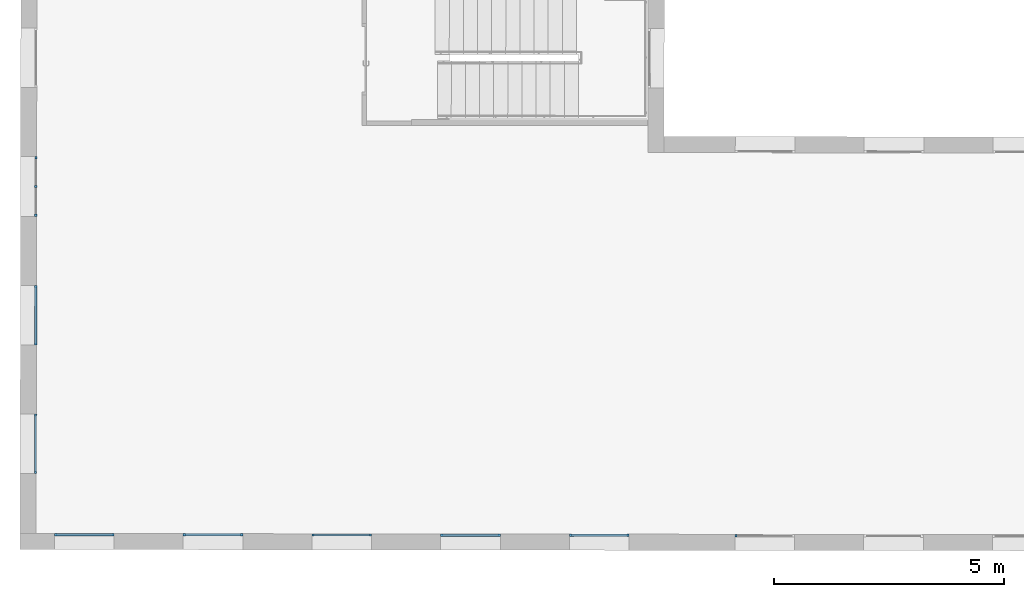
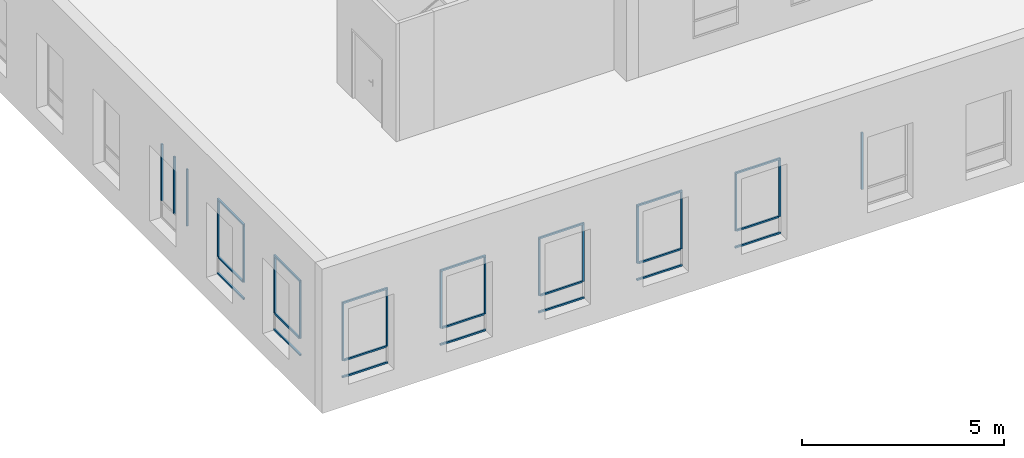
# One storey, part 1 of 35: 39 members, 9 elements without a shape of their own.
"""IFC2X3 building model written with IfcOpenShell, lengths in metres."""

from ifc_helpers import new_model, entity, si_unit, converted_unit, derived_unit, direction, frame, frame_2d, origin, origin_2d_with_axis, place, context, subcontext, project, spatial, rectangle, extrude, source, transform, mapped, material, type_object, type_shapes, element, aggregate, save


model = new_model("IFC2X3")

# Units and contexts
model_context = context("Model", 3, precision=1e-05, world=origin(), true_north=direction((6.123233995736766e-17, 1.0)))
body_context = subcontext(model_context, "Body", "Model", "MODEL_VIEW")
ifc_project = project(units=[si_unit("LENGTHUNIT", "METRE"), si_unit("AREAUNIT", "SQUARE_METRE"), converted_unit("PLANEANGLEUNIT", "DEGREE", entity("IfcPlaneAngleMeasure", 0.017453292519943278), si_unit("PLANEANGLEUNIT", "RADIAN"), dimensions=[0, 0, 0, 0, 0, 0, 0]), derived_unit("THERMALTRANSMITTANCEUNIT", [(si_unit("MASSUNIT", "GRAM", prefix="KILO"), 1), (si_unit("THERMODYNAMICTEMPERATUREUNIT", "KELVIN"), -1), (si_unit("TIMEUNIT", "SECOND"), -3)])], contexts=[model_context])

# Site, building, storey
site_placement = place(None, frame((1253.6752467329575, 2072.143113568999, 91.49999999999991), z_axis=(0.0, 0.0, 1.0), x_axis=(0.7237211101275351, 0.6900925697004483, 0.0)))
site = spatial("IfcSite", under=ifc_project, at=site_placement, Name="Surface", CompositionType="ELEMENT")
building_placement = place(site_placement, origin())
building = spatial("IfcBuilding", under=site, at=building_placement, CompositionType="ELEMENT")
storey_placement = place(building_placement, frame((0.0, 0.0, 3.549999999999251)))
storey = spatial("IfcBuildingStorey", under=building, at=storey_placement, Name="1-R+1", CompositionType="ELEMENT", Elevation=3.549999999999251)

# Curtain wall, member
curtain_wall_type = type_object("IfcCurtainWallType", Name="Mur-rideau:Menuiserie Ext 1F+1OB VERTIC", PredefinedType="NOTDEFINED")
curtain_wall_1_placement = place(storey_placement, frame((0.0, 0.0, -3.549999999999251)))
curtain_wall_1 = element("IfcCurtainWall", 1, at=curtain_wall_1_placement, inside=storey, type_object=curtain_wall_type, Name="Mur-rideau:Menuiserie Ext 1F+1OB VERTIC", ObjectType="Mur-rideau:Menuiserie Ext 1F+1OB VERTIC")
ifc_material_1 = material(Name="OMD_Aluminium Men Ext")
member_type_1 = type_object("IfcMemberType", Name="Meneau rectangulaire:50x50", PredefinedType="MULLION", material=ifc_material_1)
shared_shape_1 = source(origin(), body_context, "Body", "SweptSolid", [
    extrude(rectangle(XDim=0.05, YDim=0.049999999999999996, at=origin_2d_with_axis()), frame((-0.025, 0.0, -1.2996959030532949), z_axis=(0.0, 0.0, 1.0), x_axis=(-1.0, 0.0, 0.0)), (0.0, 0.0, 1.0), 1.2996959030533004),
])
type_shapes(member_type_1, [shared_shape_1])
member_1_placement = place(curtain_wall_1_placement, frame((152.60053656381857, -3.756054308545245, 6.4499999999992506), z_axis=(-0.7228702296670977, 0.6909838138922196, 0.0), x_axis=(0.0, 0.0, 1.0)))
member_1 = element("IfcMember", 2, at=member_1_placement, type_object=member_type_1, material=ifc_material_1, Name="Meneau rectangulaire:50x50", ObjectType="Meneau rectangulaire:50x50", context=body_context, shape_type="MappedRepresentation", body=[
    mapped(shared_shape_1, transform((0.0, 0.0, 0.0), scale=1.0)),
])

curtain_wall_2_placement = place(storey_placement, frame((0.0, 0.0, -3.549999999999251)))
curtain_wall_2 = element("IfcCurtainWall", 3, at=curtain_wall_2_placement, inside=storey, type_object=curtain_wall_type, Name="Mur-rideau:Menuiserie Ext 1F+1OB VERTIC", ObjectType="Mur-rideau:Menuiserie Ext 1F+1OB VERTIC")
member_2_placement = place(curtain_wall_2_placement, frame((150.5764999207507, -1.8212996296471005, 6.4499999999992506), z_axis=(-0.7228702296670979, 0.6909838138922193, 0.0), x_axis=(0.0, 0.0, 1.0)))
member_2 = element("IfcMember", 4, at=member_2_placement, type_object=member_type_1, material=ifc_material_1, Name="Meneau rectangulaire:50x50", ObjectType="Meneau rectangulaire:50x50", context=body_context, shape_type="MappedRepresentation", body=[
    mapped(shared_shape_1, transform((0.0, 0.0, 0.0), scale=1.0)),
])

curtain_wall_3_placement = place(storey_placement, frame((0.0, 0.0, -3.549999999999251)))
curtain_wall_3 = element("IfcCurtainWall", 5, at=curtain_wall_3_placement, inside=storey, type_object=curtain_wall_type, Name="Mur-rideau:Menuiserie Ext 1F+1OB VERTIC", ObjectType="Mur-rideau:Menuiserie Ext 1F+1OB VERTIC")
member_3_placement = place(curtain_wall_3_placement, frame((148.55246327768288, 0.11345504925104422, 6.4499999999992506), z_axis=(-0.7228702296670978, 0.6909838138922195, 0.0), x_axis=(0.0, 0.0, 1.0)))
member_3 = element("IfcMember", 6, at=member_3_placement, type_object=member_type_1, material=ifc_material_1, Name="Meneau rectangulaire:50x50", ObjectType="Meneau rectangulaire:50x50", context=body_context, shape_type="MappedRepresentation", body=[
    mapped(shared_shape_1, transform((0.0, 0.0, 0.0), scale=1.0)),
])

curtain_wall_4_placement = place(storey_placement, frame((0.0, 0.0, -3.549999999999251)))
curtain_wall_4 = element("IfcCurtainWall", 7, at=curtain_wall_4_placement, inside=storey, type_object=curtain_wall_type, Name="Mur-rideau:Menuiserie Ext 1F+1OB VERTIC", ObjectType="Mur-rideau:Menuiserie Ext 1F+1OB VERTIC")
member_4_placement = place(curtain_wall_4_placement, frame((146.5281144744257, 2.048508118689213, 6.4499999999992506), z_axis=(-0.7228702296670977, 0.6909838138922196, 0.0), x_axis=(0.0, 0.0, 1.0)))
member_4 = element("IfcMember", 8, at=member_4_placement, type_object=member_type_1, material=ifc_material_1, Name="Meneau rectangulaire:50x50", ObjectType="Meneau rectangulaire:50x50", context=body_context, shape_type="MappedRepresentation", body=[
    mapped(shared_shape_1, transform((0.0, 0.0, 0.0), scale=1.0)),
])

curtain_wall_5_placement = place(storey_placement, frame((0.0, 0.0, -3.549999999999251)))
curtain_wall_5 = element("IfcCurtainWall", 9, at=curtain_wall_5_placement, inside=storey, type_object=curtain_wall_type, Name="Mur-rideau:Menuiserie Ext 1F+1OB VERTIC", ObjectType="Mur-rideau:Menuiserie Ext 1F+1OB VERTIC")
member_5_placement = place(curtain_wall_5_placement, frame((144.50438999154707, 3.9829644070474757, 6.4499999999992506), z_axis=(-0.7228702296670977, 0.6909838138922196, 0.0), x_axis=(0.0, 0.0, 1.0)))
member_5 = element("IfcMember", 10, at=member_5_placement, type_object=member_type_1, material=ifc_material_1, Name="Meneau rectangulaire:50x50", ObjectType="Meneau rectangulaire:50x50", context=body_context, shape_type="MappedRepresentation", body=[
    mapped(shared_shape_1, transform((0.0, 0.0, 0.0), scale=1.0)),
])

curtain_wall_6_placement = place(storey_placement, frame((0.0, 0.0, -3.549999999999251)))
curtain_wall_6 = element("IfcCurtainWall", 11, at=curtain_wall_6_placement, inside=storey, type_object=curtain_wall_type, Name="Mur-rideau:Menuiserie Ext 1F+1OB VERTIC", ObjectType="Mur-rideau:Menuiserie Ext 1F+1OB VERTIC")
member_6_placement = place(curtain_wall_6_placement, frame((146.02021282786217, 6.166797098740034, 6.4499999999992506), z_axis=(0.6911544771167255, 0.7227070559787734, 0.0), x_axis=(0.0, 0.0, 1.0)))
member_6 = element("IfcMember", 12, at=member_6_placement, type_object=member_type_1, material=ifc_material_1, Name="Meneau rectangulaire:50x50", ObjectType="Meneau rectangulaire:50x50", context=body_context, shape_type="MappedRepresentation", body=[
    mapped(shared_shape_1, transform((0.0, 0.0, 0.0), scale=1.0)),
])

curtain_wall_7_placement = place(storey_placement, frame((0.0, 0.0, -3.549999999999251)))
curtain_wall_7 = element("IfcCurtainWall", 13, at=curtain_wall_7_placement, inside=storey, type_object=curtain_wall_type, Name="Mur-rideau:Menuiserie Ext 1F+1OB VERTIC", ObjectType="Mur-rideau:Menuiserie Ext 1F+1OB VERTIC")
member_7_placement = place(curtain_wall_7_placement, frame((147.9515125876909, 8.187219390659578, 6.4499999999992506), z_axis=(0.6911544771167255, 0.7227070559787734, 0.0), x_axis=(0.0, 0.0, 1.0)))
member_7 = element("IfcMember", 14, at=member_7_placement, type_object=member_type_1, material=ifc_material_1, Name="Meneau rectangulaire:50x50", ObjectType="Meneau rectangulaire:50x50", context=body_context, shape_type="MappedRepresentation", body=[
    mapped(shared_shape_1, transform((0.0, 0.0, 0.0), scale=1.0)),
])

# Member
member_type_2 = type_object("IfcMemberType", Name="Meneau rectangulaire:50x50", PredefinedType="MULLION", material=ifc_material_1)
shared_shape_2 = source(origin(), body_context, "Body", "SweptSolid", [
    extrude(rectangle(XDim=0.05, YDim=0.05, at=origin_2d_with_axis()), frame((-0.025, 0.0, -1.2996959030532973), z_axis=(0.0, 0.0, 1.0), x_axis=(-1.0, 0.0, 0.0)), (0.0, 0.0, 1.0), 1.2996959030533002),
])
type_shapes(member_type_2, [shared_shape_2])
member_8_placement = place(curtain_wall_1_placement, frame((153.5400480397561, -4.6541231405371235, 4.169999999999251), z_axis=(0.7228702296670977, -0.6909838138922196, 0.0), x_axis=(0.0, 0.0, -1.0)))
member_8 = element("IfcMember", 15, at=member_8_placement, type_object=member_type_2, material=ifc_material_1, Name="Meneau rectangulaire:50x50", ObjectType="Meneau rectangulaire:50x50", context=body_context, shape_type="MappedRepresentation", body=[
    mapped(shared_shape_2, transform((0.0, 0.0, 0.0), scale=1.0)),
])

member_9_placement = place(curtain_wall_2_placement, frame((151.5160113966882, -2.7193684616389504, 4.169999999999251), z_axis=(0.7228702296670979, -0.6909838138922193, 0.0), x_axis=(0.0, 0.0, -1.0)))
member_9 = element("IfcMember", 16, at=member_9_placement, type_object=member_type_2, material=ifc_material_1, Name="Meneau rectangulaire:50x50", ObjectType="Meneau rectangulaire:50x50", context=body_context, shape_type="MappedRepresentation", body=[
    mapped(shared_shape_2, transform((0.0, 0.0, 0.0), scale=1.0)),
])

member_10_placement = place(curtain_wall_3_placement, frame((149.4919747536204, -0.7846137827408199, 4.169999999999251), z_axis=(0.7228702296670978, -0.6909838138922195, 0.0), x_axis=(0.0, 0.0, -1.0)))
member_10 = element("IfcMember", 17, at=member_10_placement, type_object=member_type_2, material=ifc_material_1, Name="Meneau rectangulaire:50x50", ObjectType="Meneau rectangulaire:50x50", context=body_context, shape_type="MappedRepresentation", body=[
    mapped(shared_shape_2, transform((0.0, 0.0, 0.0), scale=1.0)),
])

member_11_placement = place(curtain_wall_4_placement, frame((147.4676259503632, 1.1504392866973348, 4.169999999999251), z_axis=(0.7228702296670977, -0.6909838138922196, 0.0), x_axis=(0.0, 0.0, -1.0)))
member_11 = element("IfcMember", 18, at=member_11_placement, type_object=member_type_2, material=ifc_material_1, Name="Meneau rectangulaire:50x50", ObjectType="Meneau rectangulaire:50x50", context=body_context, shape_type="MappedRepresentation", body=[
    mapped(shared_shape_2, transform((0.0, 0.0, 0.0), scale=1.0)),
])

member_12_placement = place(curtain_wall_5_placement, frame((145.44390146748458, 3.0848955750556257, 4.169999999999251), z_axis=(0.7228702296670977, -0.6909838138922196, 0.0), x_axis=(0.0, 0.0, -1.0)))
member_12 = element("IfcMember", 19, at=member_12_placement, type_object=member_type_2, material=ifc_material_1, Name="Meneau rectangulaire:50x50", ObjectType="Meneau rectangulaire:50x50", context=body_context, shape_type="MappedRepresentation", body=[
    mapped(shared_shape_2, transform((0.0, 0.0, 0.0), scale=1.0)),
])

member_13_placement = place(curtain_wall_6_placement, frame((145.12192218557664, 5.22749769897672, 4.169999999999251), z_axis=(-0.6911544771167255, -0.7227070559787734, 0.0), x_axis=(0.0, 0.0, -1.0)))
member_13 = element("IfcMember", 20, at=member_13_placement, type_object=member_type_2, material=ifc_material_1, Name="Meneau rectangulaire:50x50", ObjectType="Meneau rectangulaire:50x50", context=body_context, shape_type="MappedRepresentation", body=[
    mapped(shared_shape_2, transform((0.0, 0.0, 0.0), scale=1.0)),
])

member_14_placement = place(curtain_wall_7_placement, frame((147.05322194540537, 7.24791999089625, 4.169999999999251), z_axis=(-0.6911544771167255, -0.7227070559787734, 0.0), x_axis=(0.0, 0.0, -1.0)))
member_14 = element("IfcMember", 21, at=member_14_placement, type_object=member_type_2, material=ifc_material_1, Name="Meneau rectangulaire:50x50", ObjectType="Meneau rectangulaire:50x50", context=body_context, shape_type="MappedRepresentation", body=[
    mapped(shared_shape_2, transform((0.0, 0.0, 0.0), scale=1.0)),
])

member_type_3 = type_object("IfcMemberType", Name="Meneau rectangulaire:50x50", PredefinedType="MULLION", material=ifc_material_1)
shared_shape_3 = source(origin(), body_context, "Body", "SweptSolid", [
    extrude(rectangle(XDim=0.05, YDim=0.049999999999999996, at=origin_2d_with_axis()), frame((-0.025, 0.0, -1.7099999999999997), z_axis=(0.0, 0.0, 1.0), x_axis=(-1.0, 0.0, 0.0)), (0.0, 0.0, 1.0), 1.7099999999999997),
])
type_shapes(member_type_3, [shared_shape_3])
member_15_placement = place(curtain_wall_1_placement, frame((153.54004803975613, -4.654123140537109, 6.399999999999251), z_axis=(0.0, 0.0, 1.0), x_axis=(0.7228702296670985, -0.6909838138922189, 0.0)))
member_15 = element("IfcMember", 22, at=member_15_placement, type_object=member_type_3, material=ifc_material_1, Name="Meneau rectangulaire:50x50", ObjectType="Meneau rectangulaire:50x50", context=body_context, shape_type="MappedRepresentation", body=[
    mapped(shared_shape_3, transform((0.0, 0.0, 0.0), scale=1.0)),
])

member_16_placement = place(curtain_wall_2_placement, frame((151.51601139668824, -2.7193684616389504, 6.399999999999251), z_axis=(0.0, 0.0, 1.0), x_axis=(0.7228702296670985, -0.6909838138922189, 0.0)))
member_16 = element("IfcMember", 23, at=member_16_placement, type_object=member_type_3, material=ifc_material_1, Name="Meneau rectangulaire:50x50", ObjectType="Meneau rectangulaire:50x50", context=body_context, shape_type="MappedRepresentation", body=[
    mapped(shared_shape_3, transform((0.0, 0.0, 0.0), scale=1.0)),
])

member_17_placement = place(curtain_wall_3_placement, frame((149.4919747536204, -0.7846137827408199, 6.399999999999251), z_axis=(0.0, 0.0, 1.0), x_axis=(0.7228702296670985, -0.6909838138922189, 0.0)))
member_17 = element("IfcMember", 24, at=member_17_placement, type_object=member_type_3, material=ifc_material_1, Name="Meneau rectangulaire:50x50", ObjectType="Meneau rectangulaire:50x50", context=body_context, shape_type="MappedRepresentation", body=[
    mapped(shared_shape_3, transform((0.0, 0.0, 0.0), scale=1.0)),
])

member_18_placement = place(curtain_wall_4_placement, frame((147.46762595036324, 1.1504392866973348, 6.399999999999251), z_axis=(0.0, 0.0, 1.0), x_axis=(0.7228702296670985, -0.6909838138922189, 0.0)))
member_18 = element("IfcMember", 25, at=member_18_placement, type_object=member_type_3, material=ifc_material_1, Name="Meneau rectangulaire:50x50", ObjectType="Meneau rectangulaire:50x50", context=body_context, shape_type="MappedRepresentation", body=[
    mapped(shared_shape_3, transform((0.0, 0.0, 0.0), scale=1.0)),
])

member_19_placement = place(curtain_wall_5_placement, frame((145.44390146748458, 3.0848955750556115, 6.399999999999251), z_axis=(0.0, 0.0, 1.0), x_axis=(0.7228702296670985, -0.6909838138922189, 0.0)))
member_19 = element("IfcMember", 26, at=member_19_placement, type_object=member_type_3, material=ifc_material_1, Name="Meneau rectangulaire:50x50", ObjectType="Meneau rectangulaire:50x50", context=body_context, shape_type="MappedRepresentation", body=[
    mapped(shared_shape_3, transform((0.0, 0.0, 0.0), scale=1.0)),
])

member_20_placement = place(curtain_wall_6_placement, frame((145.1219221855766, 5.22749769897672, 6.399999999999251), z_axis=(0.0, 0.0, 1.0), x_axis=(-0.6911544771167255, -0.7227070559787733, 0.0)))
member_20 = element("IfcMember", 27, at=member_20_placement, type_object=member_type_3, material=ifc_material_1, Name="Meneau rectangulaire:50x50", ObjectType="Meneau rectangulaire:50x50", context=body_context, shape_type="MappedRepresentation", body=[
    mapped(shared_shape_3, transform((0.0, 0.0, 0.0), scale=1.0)),
])

member_21_placement = place(curtain_wall_7_placement, frame((147.0532219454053, 7.247919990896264, 6.399999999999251), z_axis=(0.0, 0.0, 1.0), x_axis=(-0.6911544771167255, -0.7227070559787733, 0.0)))
member_21 = element("IfcMember", 28, at=member_21_placement, type_object=member_type_3, material=ifc_material_1, Name="Meneau rectangulaire:50x50", ObjectType="Meneau rectangulaire:50x50", context=body_context, shape_type="MappedRepresentation", body=[
    mapped(shared_shape_3, transform((0.0, 0.0, 0.0), scale=1.0)),
])

# Curtain wall, member
curtain_wall_8_placement = place(storey_placement, frame((0.0, 0.0, -3.549999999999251)))
curtain_wall_8 = element("IfcCurtainWall", 29, at=curtain_wall_8_placement, inside=storey, type_object=curtain_wall_type, Name="Mur-rideau:Menuiserie Ext 1F+1OB VERTIC", ObjectType="Mur-rideau:Menuiserie Ext 1F+1OB VERTIC")
member_22_placement = place(curtain_wall_8_placement, frame((148.98797662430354, 9.271956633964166, 6.399999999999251), z_axis=(0.0, 0.0, 1.0), x_axis=(-0.6911544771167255, -0.7227070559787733, 0.0)))
member_22 = element("IfcMember", 30, at=member_22_placement, type_object=member_type_3, material=ifc_material_1, Name="Meneau rectangulaire:50x50", ObjectType="Meneau rectangulaire:50x50", context=body_context, shape_type="MappedRepresentation", body=[
    mapped(shared_shape_3, transform((0.0, 0.0, 0.0), scale=1.0)),
])

# Member
member_type_4 = type_object("IfcMemberType", Name="Meneau rectangulaire:50x50", PredefinedType="MULLION", material=ifc_material_1)
shared_shape_4 = source(origin(), body_context, "Body", "SweptSolid", [
    extrude(rectangle(XDim=0.05, YDim=0.049999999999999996, at=origin_2d_with_axis()), frame((-0.025, 0.0, -1.7099999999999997), z_axis=(0.0, 0.0, 1.0), x_axis=(-1.0, 0.0, 0.0)), (0.0, 0.0, 1.0), 1.7099999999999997),
])
type_shapes(member_type_4, [shared_shape_4])
member_23_placement = place(curtain_wall_1_placement, frame((152.6005365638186, -3.756054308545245, 4.689999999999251), z_axis=(0.0, 0.0, -1.0), x_axis=(-0.7228702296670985, 0.6909838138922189, 0.0)))
member_23 = element("IfcMember", 31, at=member_23_placement, type_object=member_type_4, material=ifc_material_1, Name="Meneau rectangulaire:50x50", ObjectType="Meneau rectangulaire:50x50", context=body_context, shape_type="MappedRepresentation", body=[
    mapped(shared_shape_4, transform((0.0, 0.0, 0.0), scale=1.0)),
])

member_24_placement = place(curtain_wall_2_placement, frame((150.57649992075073, -1.8212996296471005, 4.689999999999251), z_axis=(0.0, 0.0, -1.0), x_axis=(-0.7228702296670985, 0.6909838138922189, 0.0)))
member_24 = element("IfcMember", 32, at=member_24_placement, type_object=member_type_4, material=ifc_material_1, Name="Meneau rectangulaire:50x50", ObjectType="Meneau rectangulaire:50x50", context=body_context, shape_type="MappedRepresentation", body=[
    mapped(shared_shape_4, transform((0.0, 0.0, 0.0), scale=1.0)),
])

member_25_placement = place(curtain_wall_3_placement, frame((148.5524632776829, 0.11345504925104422, 4.689999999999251), z_axis=(0.0, 0.0, -1.0), x_axis=(-0.7228702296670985, 0.6909838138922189, 0.0)))
member_25 = element("IfcMember", 33, at=member_25_placement, type_object=member_type_4, material=ifc_material_1, Name="Meneau rectangulaire:50x50", ObjectType="Meneau rectangulaire:50x50", context=body_context, shape_type="MappedRepresentation", body=[
    mapped(shared_shape_4, transform((0.0, 0.0, 0.0), scale=1.0)),
])

member_26_placement = place(curtain_wall_4_placement, frame((146.5281144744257, 2.048508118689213, 4.689999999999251), z_axis=(0.0, 0.0, -1.0), x_axis=(-0.7228702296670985, 0.6909838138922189, 0.0)))
member_26 = element("IfcMember", 34, at=member_26_placement, type_object=member_type_4, material=ifc_material_1, Name="Meneau rectangulaire:50x50", ObjectType="Meneau rectangulaire:50x50", context=body_context, shape_type="MappedRepresentation", body=[
    mapped(shared_shape_4, transform((0.0, 0.0, 0.0), scale=1.0)),
])

member_27_placement = place(curtain_wall_5_placement, frame((144.50438999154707, 3.9829644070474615, 4.689999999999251), z_axis=(0.0, 0.0, -1.0), x_axis=(-0.7228702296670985, 0.6909838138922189, 0.0)))
member_27 = element("IfcMember", 35, at=member_27_placement, type_object=member_type_4, material=ifc_material_1, Name="Meneau rectangulaire:50x50", ObjectType="Meneau rectangulaire:50x50", context=body_context, shape_type="MappedRepresentation", body=[
    mapped(shared_shape_4, transform((0.0, 0.0, 0.0), scale=1.0)),
])

member_28_placement = place(curtain_wall_6_placement, frame((146.02021282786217, 6.166797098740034, 4.689999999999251), z_axis=(0.0, 0.0, -1.0), x_axis=(0.6911544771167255, 0.7227070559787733, 0.0)))
member_28 = element("IfcMember", 36, at=member_28_placement, type_object=member_type_4, material=ifc_material_1, Name="Meneau rectangulaire:50x50", ObjectType="Meneau rectangulaire:50x50", context=body_context, shape_type="MappedRepresentation", body=[
    mapped(shared_shape_4, transform((0.0, 0.0, 0.0), scale=1.0)),
])

member_29_placement = place(curtain_wall_7_placement, frame((147.9515125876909, 8.187219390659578, 4.689999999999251), z_axis=(0.0, 0.0, -1.0), x_axis=(0.6911544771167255, 0.7227070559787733, 0.0)))
member_29 = element("IfcMember", 37, at=member_29_placement, type_object=member_type_4, material=ifc_material_1, Name="Meneau rectangulaire:50x50", ObjectType="Meneau rectangulaire:50x50", context=body_context, shape_type="MappedRepresentation", body=[
    mapped(shared_shape_4, transform((0.0, 0.0, 0.0), scale=1.0)),
])

member_30_placement = place(curtain_wall_8_placement, frame((149.8862672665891, 10.21125603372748, 4.689999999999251), z_axis=(0.0, 0.0, -1.0), x_axis=(0.6911544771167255, 0.7227070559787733, 0.0)))
member_30 = element("IfcMember", 38, at=member_30_placement, type_object=member_type_4, material=ifc_material_1, Name="Meneau rectangulaire:50x50", ObjectType="Meneau rectangulaire:50x50", context=body_context, shape_type="MappedRepresentation", body=[
    mapped(shared_shape_4, transform((0.0, 0.0, 0.0), scale=1.0)),
])

# Curtain wall, member
curtain_wall_9_placement = place(storey_placement, frame((0.0, 0.0, -3.549999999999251)))
curtain_wall_9 = element("IfcCurtainWall", 39, at=curtain_wall_9_placement, inside=storey, type_object=curtain_wall_type, Name="Mur-rideau:Menuiserie Ext 1F+1OB VERTIC", ObjectType="Mur-rideau:Menuiserie Ext 1F+1OB VERTIC")
member_31_placement = place(curtain_wall_9_placement, frame((155.1994526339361, -6.247165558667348, 4.689999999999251), z_axis=(0.0, 0.0, -1.0), x_axis=(-0.7228702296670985, 0.6909838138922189, 0.0)))
member_31 = element("IfcMember", 40, at=member_31_placement, type_object=member_type_4, material=ifc_material_1, Name="Meneau rectangulaire:50x50", ObjectType="Meneau rectangulaire:50x50", context=body_context, shape_type="MappedRepresentation", body=[
    mapped(shared_shape_4, transform((0.0, 0.0, 0.0), scale=1.0)),
])
aggregate(curtain_wall_9, [member_31])

# Member
member_type_5 = type_object("IfcMemberType", Name="Meneau rectangulaire:50x50", PredefinedType="MULLION", material=ifc_material_1)
shared_shape_5 = source(origin(), body_context, "Body", "SweptSolid", [
    extrude(rectangle(XDim=0.05, YDim=0.05, at=frame_2d((0.0, -1.734723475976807e-18), x_axis=(1.0, 0.0))), frame((0.0, 0.0, -1.1996959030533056), z_axis=(0.0, 0.0, 1.0), x_axis=(-1.0, 0.0, 0.0)), (0.0, 0.0, 1.0), 1.1996959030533),
])
type_shapes(member_type_5, [shared_shape_5])
member_32_placement = place(curtain_wall_1_placement, frame((152.6366800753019, -3.7906034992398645, 4.689999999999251), z_axis=(-0.7228702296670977, 0.6909838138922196, 0.0), x_axis=(0.0, 0.0, 1.0)))
member_32 = element("IfcMember", 41, at=member_32_placement, type_object=member_type_5, material=ifc_material_1, Name="Meneau rectangulaire:50x50", ObjectType="Meneau rectangulaire:50x50", context=body_context, shape_type="MappedRepresentation", body=[
    mapped(shared_shape_5, transform((0.0, 0.0, 0.0), scale=1.0)),
])

aggregate(curtain_wall_1, [member_1, member_8, member_15, member_23, member_32])

member_33_placement = place(curtain_wall_2_placement, frame((150.61264343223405, -1.8558488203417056, 4.689999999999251), z_axis=(-0.7228702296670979, 0.6909838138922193, 0.0), x_axis=(0.0, 0.0, 1.0)))
member_33 = element("IfcMember", 42, at=member_33_placement, type_object=member_type_5, material=ifc_material_1, Name="Meneau rectangulaire:50x50", ObjectType="Meneau rectangulaire:50x50", context=body_context, shape_type="MappedRepresentation", body=[
    mapped(shared_shape_5, transform((0.0, 0.0, 0.0), scale=1.0)),
])

aggregate(curtain_wall_2, [member_2, member_9, member_16, member_24, member_33])

member_34_placement = place(curtain_wall_3_placement, frame((148.58860678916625, 0.07890585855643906, 4.689999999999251), z_axis=(-0.7228702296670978, 0.6909838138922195, 0.0), x_axis=(0.0, 0.0, 1.0)))
member_34 = element("IfcMember", 43, at=member_34_placement, type_object=member_type_5, material=ifc_material_1, Name="Meneau rectangulaire:50x50", ObjectType="Meneau rectangulaire:50x50", context=body_context, shape_type="MappedRepresentation", body=[
    mapped(shared_shape_5, transform((0.0, 0.0, 0.0), scale=1.0)),
])

aggregate(curtain_wall_3, [member_3, member_10, member_17, member_25, member_34])

member_35_placement = place(curtain_wall_4_placement, frame((146.56425798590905, 2.0139589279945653, 4.689999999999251), z_axis=(-0.7228702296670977, 0.6909838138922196, 0.0), x_axis=(0.0, 0.0, 1.0)))
member_35 = element("IfcMember", 44, at=member_35_placement, type_object=member_type_5, material=ifc_material_1, Name="Meneau rectangulaire:50x50", ObjectType="Meneau rectangulaire:50x50", context=body_context, shape_type="MappedRepresentation", body=[
    mapped(shared_shape_5, transform((0.0, 0.0, 0.0), scale=1.0)),
])

aggregate(curtain_wall_4, [member_4, member_11, member_18, member_26, member_35])

member_36_placement = place(curtain_wall_5_placement, frame((144.54053350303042, 3.9484152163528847, 4.689999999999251), z_axis=(-0.7228702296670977, 0.6909838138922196, 0.0), x_axis=(0.0, 0.0, 1.0)))
member_36 = element("IfcMember", 45, at=member_36_placement, type_object=member_type_5, material=ifc_material_1, Name="Meneau rectangulaire:50x50", ObjectType="Meneau rectangulaire:50x50", context=body_context, shape_type="MappedRepresentation", body=[
    mapped(shared_shape_5, transform((0.0, 0.0, 0.0), scale=1.0)),
])

aggregate(curtain_wall_5, [member_5, member_12, member_19, member_27, member_36])

member_37_placement = place(curtain_wall_6_placement, frame((145.98565510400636, 6.130661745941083, 4.689999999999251), z_axis=(0.6911544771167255, 0.7227070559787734, 0.0), x_axis=(0.0, 0.0, 1.0)))
member_37 = element("IfcMember", 46, at=member_37_placement, type_object=member_type_5, material=ifc_material_1, Name="Meneau rectangulaire:50x50", ObjectType="Meneau rectangulaire:50x50", context=body_context, shape_type="MappedRepresentation", body=[
    mapped(shared_shape_5, transform((0.0, 0.0, 0.0), scale=1.0)),
])

aggregate(curtain_wall_6, [member_6, member_13, member_20, member_28, member_37])

member_38_placement = place(curtain_wall_7_placement, frame((147.9169548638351, 8.151084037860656, 4.689999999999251), z_axis=(0.6911544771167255, 0.7227070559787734, 0.0), x_axis=(0.0, 0.0, 1.0)))
member_38 = element("IfcMember", 47, at=member_38_placement, type_object=member_type_5, material=ifc_material_1, Name="Meneau rectangulaire:50x50", ObjectType="Meneau rectangulaire:50x50", context=body_context, shape_type="MappedRepresentation", body=[
    mapped(shared_shape_5, transform((0.0, 0.0, 0.0), scale=1.0)),
])

aggregate(curtain_wall_7, [member_7, member_14, member_21, member_29, member_38])

ifc_material_2 = material(Name="OMD_Bois Men Int")
member_type_6 = type_object("IfcMemberType", Name="Meneau rectangulaire:50x50 Int", PredefinedType="MULLION", material=ifc_material_2)
shared_shape_6 = source(origin(), body_context, "Body", "SweptSolid", [
    extrude(rectangle(XDim=0.05, YDim=0.05, at=origin_2d_with_axis()), frame((0.0, 0.0, -1.7350000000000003), z_axis=(0.0, 0.0, 1.0), x_axis=(-1.0, 0.0, 0.0)), (0.0, 0.0, 1.0), 1.735),
])
type_shapes(member_type_6, [shared_shape_6])
member_39_placement = place(curtain_wall_8_placement, frame((149.43712194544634, 9.741606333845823, 4.66499999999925), z_axis=(0.0, 0.0, -1.0), x_axis=(0.6911544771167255, 0.7227070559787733, 0.0)))
member_39 = element("IfcMember", 48, at=member_39_placement, type_object=member_type_6, material=ifc_material_2, Name="Meneau rectangulaire:50x50 Int", ObjectType="Meneau rectangulaire:50x50 Int", context=body_context, shape_type="MappedRepresentation", body=[
    mapped(shared_shape_6, transform((0.0, 0.0, 0.0), scale=1.0)),
])

aggregate(curtain_wall_8, [member_22, member_30, member_39])

save(model, "model.ifc")
